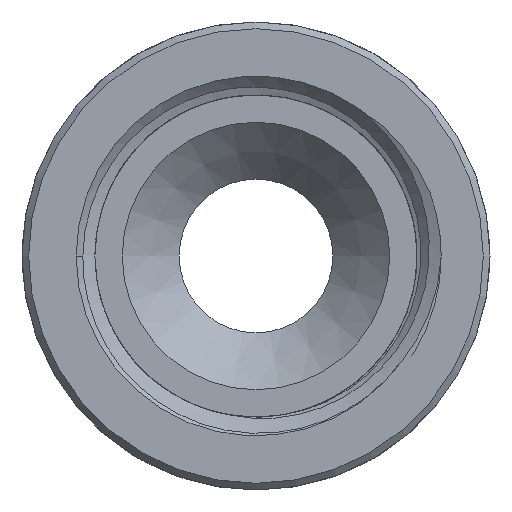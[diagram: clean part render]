
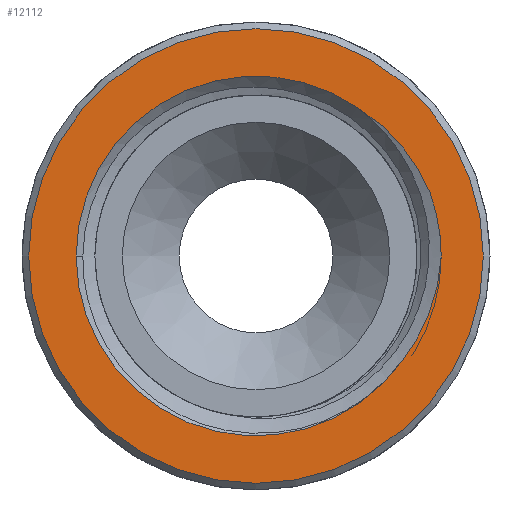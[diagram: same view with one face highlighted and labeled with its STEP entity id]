
A CAD part, left-side view. The second image highlights one B-rep face of the part: STEP entity #12112.
In plain terms, the highlighted planar face has unit normal (-1, 0, 0).
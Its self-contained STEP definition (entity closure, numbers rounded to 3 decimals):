
#232=PLANE('',#12701);
#1229=FACE_OUTER_BOUND('',#2323,.T.);
#1267=CIRCLE('',#12181,13.45);
#1271=CIRCLE('',#12200,13.85);
#1366=CIRCLE('',#12474,13.45);
#1518=CIRCLE('',#12702,17.);
#1519=CIRCLE('',#12703,17.);
#1641=FACE_BOUND('',#2324,.T.);
#2323=EDGE_LOOP('',(#11133,#11134));
#2324=EDGE_LOOP('',(#11135,#11136,#11137,#11138,#11139));
#3096=B_SPLINE_CURVE_WITH_KNOTS('',3,(#27155,#27156,#27157,#27158,#27159,
#27160,#27161,#27162,#27163,#27164,#27165,#27166,#27167,#27168,#27169,#27170,
#27171,#27172,#27173,#27174,#27175,#27176,#27177,#27178,#27179,#27180,#27181,
#27182,#27183,#27184,#27185,#27186,#27187,#27188,#27189,#27190,#27191),
 .UNSPECIFIED.,.F.,.F.,(4,3,3,3,3,3,3,3,3,3,3,3,4),(0.,0.094,
0.189,0.284,0.382,0.475,
0.526,0.536,0.546,0.639,
0.677,0.77,0.851),.UNSPECIFIED.);
#3100=B_SPLINE_CURVE_WITH_KNOTS('',3,(#27926,#27927,#27928,#27929,#27930,
#27931,#27932,#27933,#27934,#27935,#27936,#27937,#27938,#27939,#27940,#27941,
#27942,#27943,#27944,#27945,#27946,#27947,#27948,#27949,#27950,#27951,#27952,
#27953,#27954,#27955,#27956,#27957,#27958,#27959,#27960,#27961,#27962,#27963,
#27964,#27965,#27966,#27967,#27968),.UNSPECIFIED.,.F.,.F.,(4,3,3,3,3,3,
3,3,3,3,3,3,3,3,4),(2.778,2.871,2.943,
2.975,2.99,2.998,3.091,3.185,
3.251,3.304,3.316,3.411,3.448,
3.543,3.626),.UNSPECIFIED.);
#4641=VERTEX_POINT('',#15094);
#4643=VERTEX_POINT('',#15097);
#4677=VERTEX_POINT('',#15904);
#4679=VERTEX_POINT('',#15907);
#5636=VERTEX_POINT('',#27925);
#5801=VERTEX_POINT('',#29110);
#5802=VERTEX_POINT('',#29111);
#5889=EDGE_CURVE('',#4641,#4643,#1267,.T.);
#5938=EDGE_CURVE('',#4679,#4677,#1271,.T.);
#7371=EDGE_CURVE('',#4677,#4643,#3096,.T.);
#7376=EDGE_CURVE('',#5636,#4679,#3100,.T.);
#7381=EDGE_CURVE('',#5636,#4641,#1366,.T.);
#7616=EDGE_CURVE('',#5801,#5802,#1518,.T.);
#7617=EDGE_CURVE('',#5802,#5801,#1519,.T.);
#11133=ORIENTED_EDGE('',*,*,#7616,.T.);
#11134=ORIENTED_EDGE('',*,*,#7617,.T.);
#11135=ORIENTED_EDGE('',*,*,#7371,.T.);
#11136=ORIENTED_EDGE('',*,*,#5889,.F.);
#11137=ORIENTED_EDGE('',*,*,#7381,.F.);
#11138=ORIENTED_EDGE('',*,*,#7376,.T.);
#11139=ORIENTED_EDGE('',*,*,#5938,.T.);
#12112=ADVANCED_FACE('',(#1229,#1641),#232,.T.);
#12181=AXIS2_PLACEMENT_3D('',#15098,#12842,#12843);
#12200=AXIS2_PLACEMENT_3D('',#15908,#12897,#12898);
#12474=AXIS2_PLACEMENT_3D('',#28197,#14096,#14097);
#12701=AXIS2_PLACEMENT_3D('',#29109,#14604,#14605);
#12702=AXIS2_PLACEMENT_3D('',#29112,#14606,#14607);
#12703=AXIS2_PLACEMENT_3D('',#29113,#14608,#14609);
#12842=DIRECTION('center_axis',(-1.,0.,0.));
#12843=DIRECTION('ref_axis',(0.,0.,1.));
#12897=DIRECTION('center_axis',(1.,0.,0.));
#12898=DIRECTION('ref_axis',(0.,1.,0.));
#14096=DIRECTION('center_axis',(-1.,0.,0.));
#14097=DIRECTION('ref_axis',(0.,0.,1.));
#14604=DIRECTION('center_axis',(-1.,0.,0.));
#14605=DIRECTION('ref_axis',(0.,0.,1.));
#14606=DIRECTION('center_axis',(-1.,0.,0.));
#14607=DIRECTION('ref_axis',(0.,0.,1.));
#14608=DIRECTION('center_axis',(-1.,0.,0.));
#14609=DIRECTION('ref_axis',(0.,0.,1.));
#15094=CARTESIAN_POINT('',(-20.,13.45,0.));
#15097=CARTESIAN_POINT('',(-20.,-10.942,-7.821));
#15098=CARTESIAN_POINT('Origin',(-20.,0.,0.));
#15904=CARTESIAN_POINT('',(-20.,-13.85,0.));
#15907=CARTESIAN_POINT('',(-20.,-13.015,4.737));
#15908=CARTESIAN_POINT('Origin',(-20.,0.,0.));
#27155=CARTESIAN_POINT('Ctrl Pts',(-20.,-13.85,0.));
#27156=CARTESIAN_POINT('Ctrl Pts',(-20.,-13.835,-0.313));
#27157=CARTESIAN_POINT('Ctrl Pts',(-20.,-13.81,-0.624));
#27158=CARTESIAN_POINT('Ctrl Pts',(-20.,-13.774,-0.934));
#27159=CARTESIAN_POINT('Ctrl Pts',(-20.,-13.738,-1.247));
#27160=CARTESIAN_POINT('Ctrl Pts',(-20.,-13.691,-1.558));
#27161=CARTESIAN_POINT('Ctrl Pts',(-20.,-13.634,-1.867));
#27162=CARTESIAN_POINT('Ctrl Pts',(-20.,-13.576,-2.177));
#27163=CARTESIAN_POINT('Ctrl Pts',(-20.,-13.508,-2.485));
#27164=CARTESIAN_POINT('Ctrl Pts',(-20.,-13.429,-2.79));
#27165=CARTESIAN_POINT('Ctrl Pts',(-20.,-13.348,-3.106));
#27166=CARTESIAN_POINT('Ctrl Pts',(-20.,-13.256,-3.419));
#27167=CARTESIAN_POINT('Ctrl Pts',(-20.,-13.152,-3.728));
#27168=CARTESIAN_POINT('Ctrl Pts',(-20.,-13.054,-4.022));
#27169=CARTESIAN_POINT('Ctrl Pts',(-20.,-12.946,-4.312));
#27170=CARTESIAN_POINT('Ctrl Pts',(-20.,-12.828,-4.599));
#27171=CARTESIAN_POINT('Ctrl Pts',(-20.,-12.764,-4.754));
#27172=CARTESIAN_POINT('Ctrl Pts',(-20.,-12.697,-4.908));
#27173=CARTESIAN_POINT('Ctrl Pts',(-20.,-12.628,-5.061));
#27174=CARTESIAN_POINT('Ctrl Pts',(-20.,-12.614,-5.091));
#27175=CARTESIAN_POINT('Ctrl Pts',(-20.,-12.6,-5.121));
#27176=CARTESIAN_POINT('Ctrl Pts',(-20.,-12.586,-5.152));
#27177=CARTESIAN_POINT('Ctrl Pts',(-20.,-12.572,-5.182));
#27178=CARTESIAN_POINT('Ctrl Pts',(-20.,-12.558,-5.212));
#27179=CARTESIAN_POINT('Ctrl Pts',(-20.,-12.544,-5.242));
#27180=CARTESIAN_POINT('Ctrl Pts',(-20.,-12.411,-5.523));
#27181=CARTESIAN_POINT('Ctrl Pts',(-20.,-12.268,-5.799));
#27182=CARTESIAN_POINT('Ctrl Pts',(-20.,-12.116,-6.07));
#27183=CARTESIAN_POINT('Ctrl Pts',(-20.,-12.055,-6.179));
#27184=CARTESIAN_POINT('Ctrl Pts',(-20.,-11.992,-6.288));
#27185=CARTESIAN_POINT('Ctrl Pts',(-20.,-11.927,-6.395));
#27186=CARTESIAN_POINT('Ctrl Pts',(-20.,-11.768,-6.662));
#27187=CARTESIAN_POINT('Ctrl Pts',(-20.,-11.599,-6.922));
#27188=CARTESIAN_POINT('Ctrl Pts',(-20.,-11.422,-7.176));
#27189=CARTESIAN_POINT('Ctrl Pts',(-20.,-11.268,-7.396));
#27190=CARTESIAN_POINT('Ctrl Pts',(-20.,-11.109,-7.611));
#27191=CARTESIAN_POINT('Ctrl Pts',(-20.,-10.942,-7.821));
#27925=CARTESIAN_POINT('',(-20.,-7.607,11.092));
#27926=CARTESIAN_POINT('Ctrl Pts',(-20.,-7.607,11.092));
#27927=CARTESIAN_POINT('Ctrl Pts',(-20.,-7.87,10.929));
#27928=CARTESIAN_POINT('Ctrl Pts',(-20.,-8.128,10.758));
#27929=CARTESIAN_POINT('Ctrl Pts',(-20.,-8.379,10.577));
#27930=CARTESIAN_POINT('Ctrl Pts',(-20.,-8.574,10.437));
#27931=CARTESIAN_POINT('Ctrl Pts',(-20.,-8.766,10.291));
#27932=CARTESIAN_POINT('Ctrl Pts',(-20.,-8.953,10.141));
#27933=CARTESIAN_POINT('Ctrl Pts',(-20.,-9.035,10.075));
#27934=CARTESIAN_POINT('Ctrl Pts',(-20.,-9.117,10.008));
#27935=CARTESIAN_POINT('Ctrl Pts',(-20.,-9.197,9.94));
#27936=CARTESIAN_POINT('Ctrl Pts',(-20.,-9.235,9.909));
#27937=CARTESIAN_POINT('Ctrl Pts',(-20.,-9.272,9.877));
#27938=CARTESIAN_POINT('Ctrl Pts',(-20.,-9.309,9.845));
#27939=CARTESIAN_POINT('Ctrl Pts',(-20.,-9.33,9.827));
#27940=CARTESIAN_POINT('Ctrl Pts',(-20.,-9.351,9.809));
#27941=CARTESIAN_POINT('Ctrl Pts',(-20.,-9.371,9.791));
#27942=CARTESIAN_POINT('Ctrl Pts',(-20.,-9.607,9.586));
#27943=CARTESIAN_POINT('Ctrl Pts',(-20.,-9.835,9.373));
#27944=CARTESIAN_POINT('Ctrl Pts',(-20.,-10.056,9.152));
#27945=CARTESIAN_POINT('Ctrl Pts',(-20.,-10.278,8.93));
#27946=CARTESIAN_POINT('Ctrl Pts',(-20.,-10.493,8.701));
#27947=CARTESIAN_POINT('Ctrl Pts',(-20.,-10.699,8.464));
#27948=CARTESIAN_POINT('Ctrl Pts',(-20.,-10.843,8.299));
#27949=CARTESIAN_POINT('Ctrl Pts',(-20.,-10.983,8.13));
#27950=CARTESIAN_POINT('Ctrl Pts',(-20.,-11.119,7.958));
#27951=CARTESIAN_POINT('Ctrl Pts',(-20.,-11.229,7.82));
#27952=CARTESIAN_POINT('Ctrl Pts',(-20.,-11.336,7.679));
#27953=CARTESIAN_POINT('Ctrl Pts',(-20.,-11.441,7.536));
#27954=CARTESIAN_POINT('Ctrl Pts',(-20.,-11.464,7.503));
#27955=CARTESIAN_POINT('Ctrl Pts',(-20.,-11.488,7.471));
#27956=CARTESIAN_POINT('Ctrl Pts',(-20.,-11.511,7.438));
#27957=CARTESIAN_POINT('Ctrl Pts',(-20.,-11.696,7.18));
#27958=CARTESIAN_POINT('Ctrl Pts',(-20.,-11.872,6.916));
#27959=CARTESIAN_POINT('Ctrl Pts',(-20.,-12.038,6.647));
#27960=CARTESIAN_POINT('Ctrl Pts',(-20.,-12.102,6.542));
#27961=CARTESIAN_POINT('Ctrl Pts',(-20.,-12.166,6.435));
#27962=CARTESIAN_POINT('Ctrl Pts',(-20.,-12.228,6.329));
#27963=CARTESIAN_POINT('Ctrl Pts',(-20.,-12.385,6.056));
#27964=CARTESIAN_POINT('Ctrl Pts',(-20.,-12.534,5.778));
#27965=CARTESIAN_POINT('Ctrl Pts',(-20.,-12.672,5.495));
#27966=CARTESIAN_POINT('Ctrl Pts',(-20.,-12.794,5.246));
#27967=CARTESIAN_POINT('Ctrl Pts',(-20.,-12.908,4.993));
#27968=CARTESIAN_POINT('Ctrl Pts',(-20.,-13.014,4.737));
#28197=CARTESIAN_POINT('Origin',(-20.,0.,0.));
#29109=CARTESIAN_POINT('Origin',(-20.,-13.45,0.));
#29110=CARTESIAN_POINT('',(-20.,-17.,0.));
#29111=CARTESIAN_POINT('',(-20.,17.,0.));
#29112=CARTESIAN_POINT('Origin',(-20.,0.,0.));
#29113=CARTESIAN_POINT('Origin',(-20.,0.,0.));
